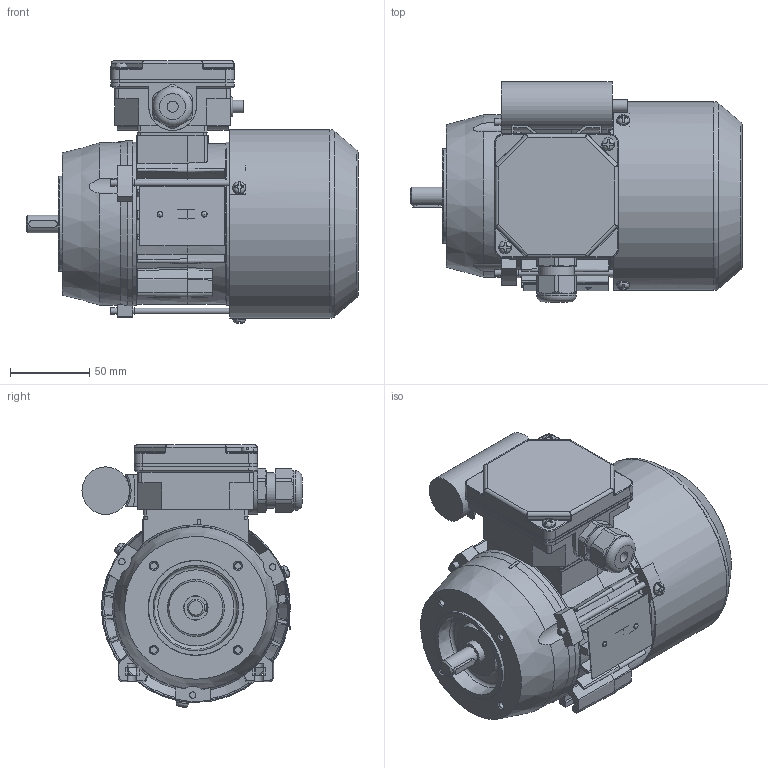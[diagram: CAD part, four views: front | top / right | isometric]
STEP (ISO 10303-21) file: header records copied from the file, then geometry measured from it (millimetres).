
FILE_DESCRIPTION(/* description */ ('Unknown'),/* implementation_level */ '2;1');
FILE_NAME(/* name */ '3SSIEK63-2A2',/* time_stamp */ '2024-06-28T11:32:50+02:00',/* author */ ('Unknown'),/* organization */ ('Unknown'),/* preprocessor_version */ 'ST-DEVELOPER v16.7',/* originating_system */ 'Solid Edge',/* authorisation */ 'Unknown');
FILE_SCHEMA (('AUTOMOTIVE_DESIGN {1 0 10303 214 3 1 1}'));
Length unit declared in the file: millimetre
Products named in the file (1): Czêœæ12
Bounding box: 209.49 x 138.82 x 165.7 mm (x, y, z)
Volume: 524983.3 mm3; surface area: 317748.9 mm2
Topology: 3 solids, 3 shells, 1835 faces, 5144 edges, 3349 vertices
Faces by surface type: plane 938, cylinder 536, cone 126, torus 120, bspline 94, sphere 21
Full cylindrical faces by diameter (mm): 2.4 x2, 3 x1, 3.7 x7, 4 x8, 4.134 x4, 4.5 x5, 4.6 x1, 4.8 x2, 5 x2, 6.5 x1, 7 x4, 7.999 x1, 8 x6, 10.999 x1, 12.899 x1, 13.099 x1, 14.998 x2, 15.4 x2, 18.998 x2, 19.498 x1, 19.998 x1, 20.098 x1, 21.518 x4, 22.3 x1, 25 x1, 28 x2, 28.48 x4, 29.997 x1, 31 x2, 35 x3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
Entity records: 74138 total; most frequent: CARTESIAN_POINT 16005, ORIENTED_EDGE 9658, DIRECTION 9005, EDGE_CURVE 4829, AXIS2_PLACEMENT_3D 3328, VERTEX_POINT 3236, LINE 2349, VECTOR 2349
